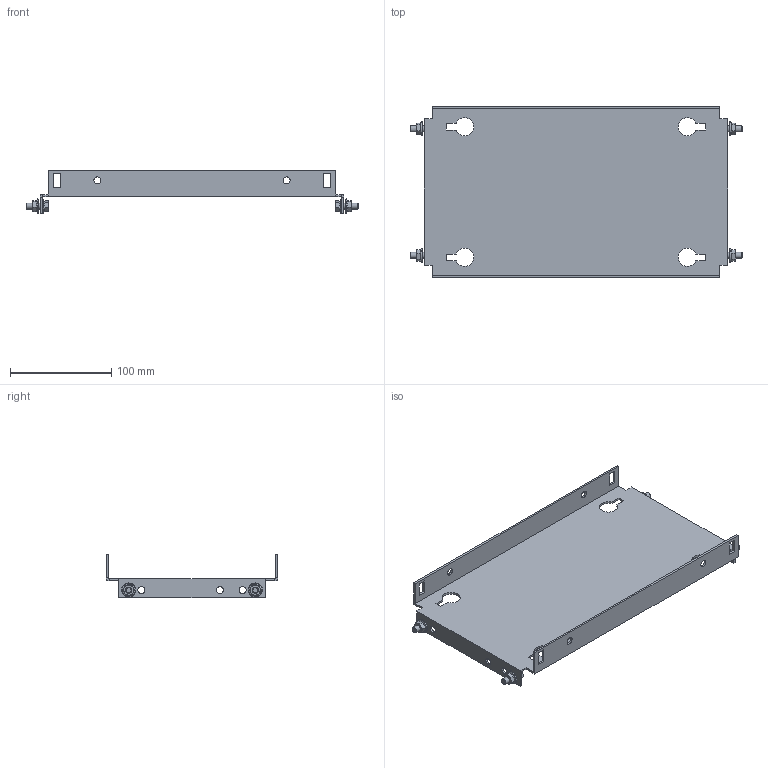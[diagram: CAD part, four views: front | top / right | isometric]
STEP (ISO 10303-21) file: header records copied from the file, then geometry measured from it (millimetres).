
FILE_DESCRIPTION(('Open CASCADE Model'),'2;1');
FILE_NAME('Open CASCADE Shape Model','2025-02-20T13:24:42',('Author'),( 'Open CASCADE'),'Open CASCADE STEP processor 7.8','Open CASCADE 7.8' ,'Unknown');
FILE_SCHEMA(('AUTOMOTIVE_DESIGN { 1 0 10303 214 1 1 1 1 }'));
Length unit declared in the file: millimetre
Products named in the file (4): Compound1; Solid1; Solid2; Solid3
Assembly tree (9 placements, depth 2):
  Compound1
    Solid1
    Solid2  x4
    Solid3  x4
Bounding box: 328 x 169 x 43 mm (x, y, z)
Volume: 139749.8 mm3; surface area: 142539.8 mm2
Topology: 9 solids, 9 shells, 308 faces, 753 edges, 467 vertices
Faces by surface type: plane 150, cone 68, bspline 48, cylinder 30, torus 12
Full cylindrical faces by diameter (mm): 5 x4, 6 x8, 7 x14
Entity records: 4930 total; most frequent: CARTESIAN_POINT 1377, ORIENTED_EDGE 756, DIRECTION 642, EDGE_CURVE 378, VERTEX_POINT 245, LINE 216, VECTOR 216, AXIS2_PLACEMENT_3D 213
